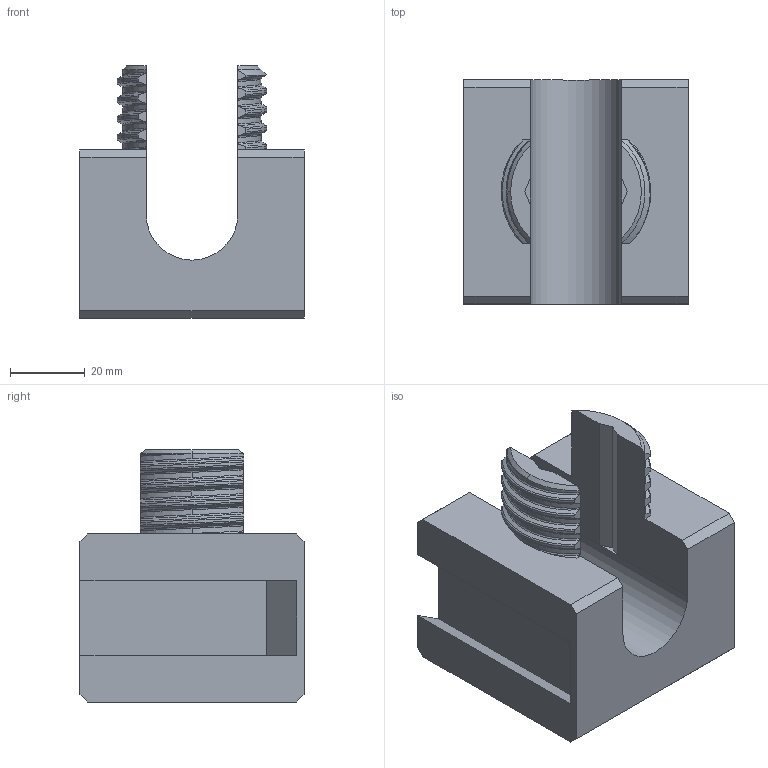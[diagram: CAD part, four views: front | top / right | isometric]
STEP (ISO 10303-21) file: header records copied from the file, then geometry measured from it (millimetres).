
FILE_DESCRIPTION (( 'STEP AP214' ), '1' );
FILE_NAME ('DS_v2A_DrziakLP.STEP', '2026-03-22T08:45:34', ( '' ), ( '' ), 'SwSTEP 2.0', 'SolidWorks 2026', '' );
FILE_SCHEMA (( 'AUTOMOTIVE_DESIGN' ));
Length unit declared in the file: millimetre
Products named in the file (1): DS_v2A_DrziakLP
Bounding box: 60 x 60 x 67.5 mm (x, y, z)
Volume: 106265.7 mm3; surface area: 25377 mm2
Topology: 1 solids, 1 shells, 136 faces, 359 edges, 225 vertices
Faces by surface type: bspline 65, plane 53, cylinder 15, cone 3
Entity records: 39511 total; most frequent: CARTESIAN_POINT 36924, ORIENTED_EDGE 718, EDGE_CURVE 359, DIRECTION 289, VERTEX_POINT 225, B_SPLINE_CURVE_WITH_KNOTS 136, EDGE_LOOP 136, ADVANCED_FACE 136
